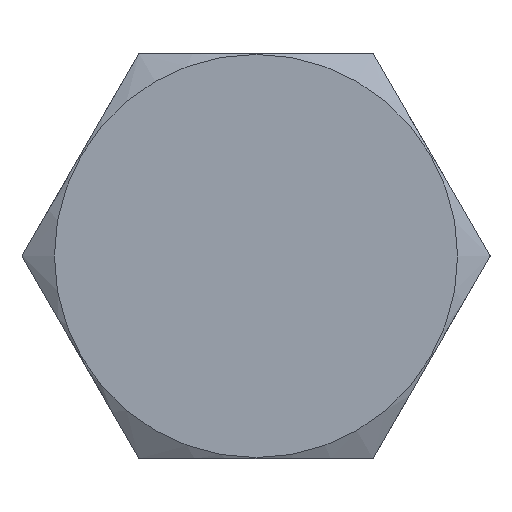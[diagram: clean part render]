
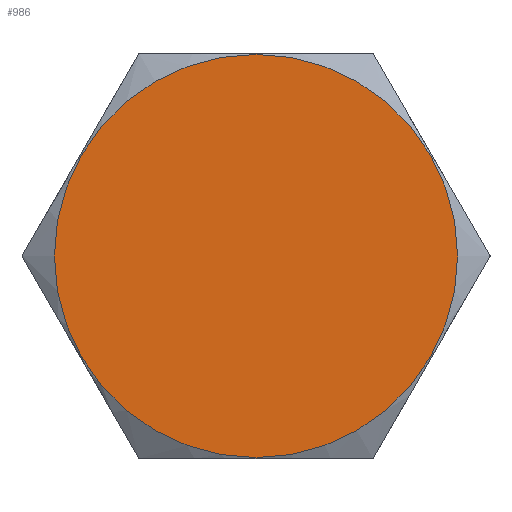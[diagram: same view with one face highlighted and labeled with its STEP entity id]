
A CAD part, front view. The second image highlights one B-rep face of the part: STEP entity #986.
In plain terms, the highlighted planar face has unit normal (0, -1, 0).
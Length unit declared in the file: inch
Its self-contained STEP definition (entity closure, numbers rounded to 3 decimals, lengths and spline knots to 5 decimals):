
#57=PLANE('',#1125);
#209=FACE_OUTER_BOUND('',#270,.T.);
#270=EDGE_LOOP('',(#832));
#344=CIRCLE('',#1122,0.373);
#459=VERTEX_POINT('',#1878);
#590=EDGE_CURVE('',#459,#459,#344,.T.);
#832=ORIENTED_EDGE('',*,*,#590,.F.);
#986=ADVANCED_FACE('',(#209),#57,.T.);
#1122=AXIS2_PLACEMENT_3D('',#1879,#1372,#1373);
#1125=AXIS2_PLACEMENT_3D('',#1883,#1379,#1380);
#1372=DIRECTION('center_axis',(0.,1.,0.));
#1373=DIRECTION('ref_axis',(0.,0.,1.));
#1379=DIRECTION('center_axis',(0.,-1.,0.));
#1380=DIRECTION('ref_axis',(0.,0.,-1.));
#1878=CARTESIAN_POINT('',(0.,0.,-0.373));
#1879=CARTESIAN_POINT('Origin',(0.,0.,0.));
#1883=CARTESIAN_POINT('Origin',(0.,0.,0.));
